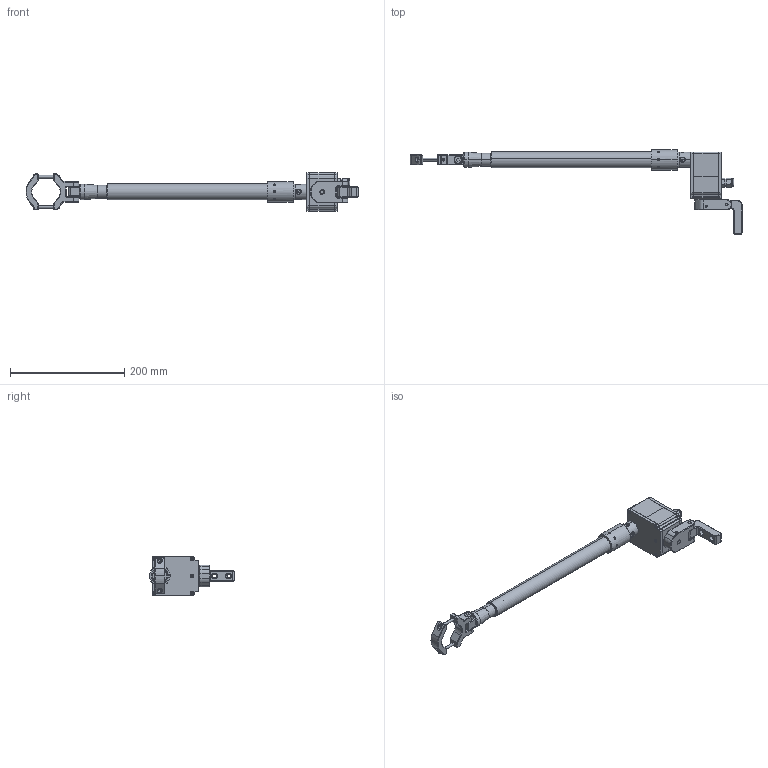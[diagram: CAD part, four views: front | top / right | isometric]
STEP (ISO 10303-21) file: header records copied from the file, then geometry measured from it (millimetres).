
FILE_DESCRIPTION (( 'STEP AP214' ), '1' );
FILE_NAME ('CAR281-TLS1 chiuso sensore magnetico.STEP', '2018-12-19T13:31:36', ( '' ), ( '' ), 'SwSTEP 2.0', 'SolidWorks 2017', '' );
FILE_SCHEMA (( 'AUTOMOTIVE_DESIGN' ));
Length unit declared in the file: millimetre
Products named in the file (1): CAR281-TLS1 chiuso sensore magnetico
Bounding box: 582.32 x 149 x 68 mm (x, y, z)
Volume: 395425.5 mm3; surface area: 276182.1 mm2
Topology: 55 solids, 55 shells, 1628 faces, 3809 edges, 2337 vertices
Faces by surface type: plane 749, cylinder 487, cone 296, torus 58, bspline 38
Entity records: 67042 total; most frequent: CARTESIAN_POINT 10926, DIRECTION 8027, ORIENTED_EDGE 7502, EDGE_CURVE 3751, AXIS2_PLACEMENT_3D 2889, VERTEX_POINT 2337, VECTOR 2249, LINE 2249
